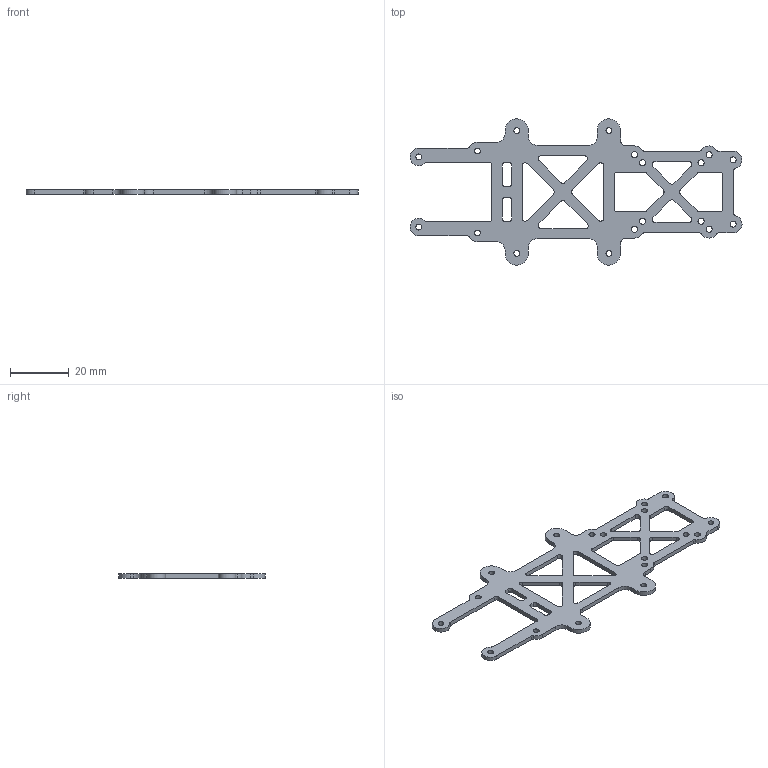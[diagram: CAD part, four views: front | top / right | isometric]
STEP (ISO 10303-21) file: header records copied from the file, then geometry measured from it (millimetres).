
FILE_DESCRIPTION(/* description */ (''),/* implementation_level */ '2;1');
FILE_NAME(/* name */ 'GoFlyPro - 2.5Z - Topplate-V2.step',/* time_stamp */ '2025-06-09T08:25:48+02:00',/* author */ (''),/* organization */ (''),/* preprocessor_version */ 'ST-DEVELOPER v20.1',/* originating_system */ 'Autodesk Translation Framework v14.10.0.0',/* authorisation */ '');
FILE_SCHEMA (('AUTOMOTIVE_DESIGN { 1 0 10303 214 3 1 1 }'));
Length unit declared in the file: millimetre
Products named in the file (1): GoFlyPro - 2.5Z - Topplate-V2
Bounding box: 113.5 x 50 x 1.5 mm (x, y, z)
Volume: 3153.5 mm3; surface area: 5558 mm2
Topology: 1 solids, 1 shells, 152 faces, 450 edges, 300 vertices
Faces by surface type: cylinder 90, plane 62
Full cylindrical faces by diameter (mm): 2 x10, 2.1 x8
Entity records: 5308 total; most frequent: DIRECTION 936, CARTESIAN_POINT 903, ORIENTED_EDGE 900, EDGE_CURVE 450, AXIS2_PLACEMENT_3D 333, VERTEX_POINT 300, LINE 270, VECTOR 270
